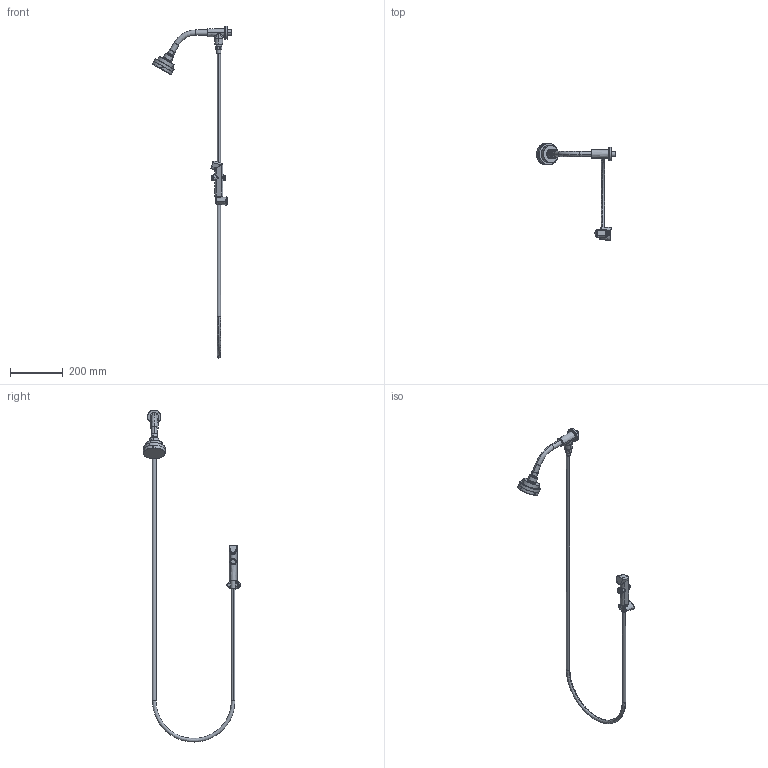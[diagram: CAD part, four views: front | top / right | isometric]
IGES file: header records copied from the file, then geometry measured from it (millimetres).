
Start section: Autodesk Alias AutoStudio 2020 (Build: 201905142046-4cbec609ad) Autodesk Translation Framework 8.4.1.1053
Global section: file name: 12306510; native system: unknown; preprocessor: unknown; author: unknown; organization: unknown; date: 20221010.193608; units: millimetre
Bounding box: 300.56 x 369.26 x 1261.79 mm (x, y, z)
Surface area: 350508.1 mm2 (no closed solid volume)
Topology: 0 solids, 1 shells, 417 faces, 998 edges, 546 vertices
Faces by surface type: bspline 417
